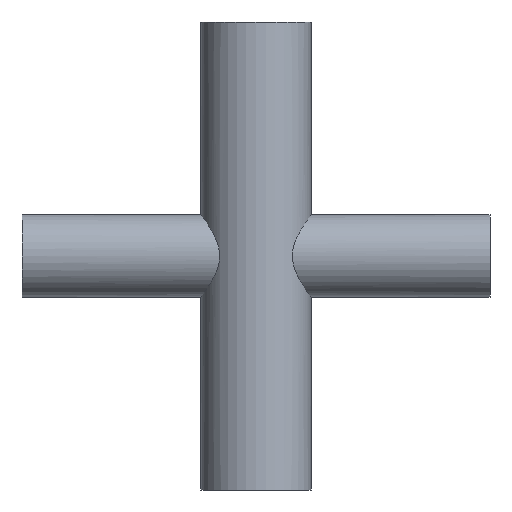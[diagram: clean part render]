
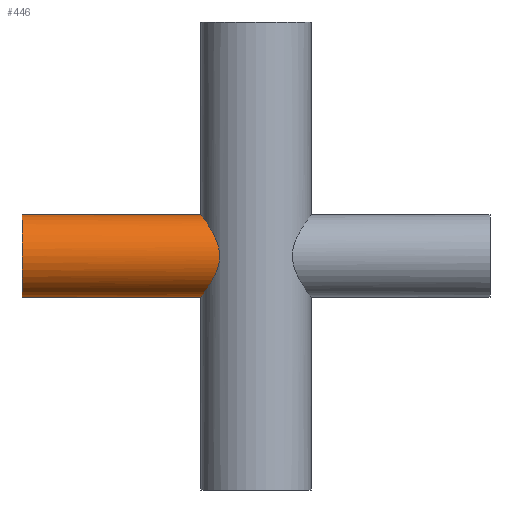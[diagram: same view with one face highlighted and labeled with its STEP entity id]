
A CAD part, front view. The second image highlights one B-rep face of the part: STEP entity #446.
In plain terms, the highlighted cylindrical face has radius 9.525 mm (diameter 19.05 mm), a partial arc.
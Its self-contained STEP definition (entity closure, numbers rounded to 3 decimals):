
#16 = CARTESIAN_POINT ( 'NONE',  ( -53.975, 0., 9.525 ) ) ;
#32 = DIRECTION ( 'NONE',  ( 1., 0., 0. ) ) ;
#40 = CARTESIAN_POINT ( 'NONE',  ( -8.689, -9.263, -2.241 ) ) ;
#43 = LINE ( 'NONE', #16, #692 ) ;
#44 = CARTESIAN_POINT ( 'NONE',  ( -11.733, -4.87, 8.191 ) ) ;
#47 = CARTESIAN_POINT ( 'NONE',  ( -11.943, -4.329, 8.49 ) ) ;
#55 = CARTESIAN_POINT ( 'NONE',  ( -12.649, -1.31, -9.457 ) ) ;
#77 = EDGE_CURVE ( 'NONE', #548, #858, #637, .T. ) ;
#80 = ORIENTED_EDGE ( 'NONE', *, *, #334, .F. ) ;
#87 = LINE ( 'NONE', #381, #649 ) ;
#94 = ORIENTED_EDGE ( 'NONE', *, *, #903, .T. ) ;
#108 = CARTESIAN_POINT ( 'NONE',  ( -9.078, -8.883, 3.451 ) ) ;
#113 = CARTESIAN_POINT ( 'NONE',  ( -8.692, -9.26, 2.255 ) ) ;
#124 = CARTESIAN_POINT ( 'NONE',  ( -12.3, -3.177, 8.985 ) ) ;
#127 = CARTESIAN_POINT ( 'NONE',  ( -10.476, -7.182, 6.263 ) ) ;
#130 = CARTESIAN_POINT ( 'NONE',  ( -12.7, -0.661, -9.525 ) ) ;
#136 = CARTESIAN_POINT ( 'NONE',  ( -8.552, -9.39, 1.631 ) ) ;
#160 = EDGE_CURVE ( 'NONE', #548, #833, #43, .T. ) ;
#181 = CARTESIAN_POINT ( 'NONE',  ( -12.7, 0., -9.525 ) ) ;
#236 = ORIENTED_EDGE ( 'NONE', *, *, #160, .F. ) ;
#244 = CARTESIAN_POINT ( 'NONE',  ( -10.612, -6.982, 6.486 ) ) ;
#250 = CARTESIAN_POINT ( 'NONE',  ( -8.496, -9.44, 1.311 ) ) ;
#255 = DIRECTION ( 'NONE',  ( 0., 0., -1. ) ) ;
#257 = CARTESIAN_POINT ( 'NONE',  ( -9.421, -8.523, 4.297 ) ) ;
#261 = CARTESIAN_POINT ( 'NONE',  ( -8.965, -8.996, -3.145 ) ) ;
#277 = AXIS2_PLACEMENT_3D ( 'NONE', #651, #32, #255 ) ;
#322 = CARTESIAN_POINT ( 'NONE',  ( -8.419, -9.509, -0.642 ) ) ;
#331 = CARTESIAN_POINT ( 'NONE',  ( -53.975, 0., 0. ) ) ;
#332 = CARTESIAN_POINT ( 'NONE',  ( -12.442, -2.564, 9.179 ) ) ;
#334 = EDGE_CURVE ( 'NONE', #833, #583, #589, .T. ) ;
#379 = CARTESIAN_POINT ( 'NONE',  ( -10.069, -7.743, -5.555 ) ) ;
#381 = CARTESIAN_POINT ( 'NONE',  ( -53.975, 0., -9.525 ) ) ;
#392 = CARTESIAN_POINT ( 'NONE',  ( -10.203, -7.566, -5.794 ) ) ;
#398 = CARTESIAN_POINT ( 'NONE',  ( -11.265, -5.892, 7.509 ) ) ;
#402 = CARTESIAN_POINT ( 'NONE',  ( -9.073, -8.888, -3.439 ) ) ;
#446 = ADVANCED_FACE ( 'NONE', ( #628 ), #593, .T. ) ;
#449 = CARTESIAN_POINT ( 'NONE',  ( -12.7, 0., 9.525 ) ) ;
#451 = CARTESIAN_POINT ( 'NONE',  ( -12.7, 0., 9.525 ) ) ;
#460 = CARTESIAN_POINT ( 'NONE',  ( -12.7, -0.66, 9.525 ) ) ;
#466 = CARTESIAN_POINT ( 'NONE',  ( -9.676, -8.236, 4.821 ) ) ;
#477 = CARTESIAN_POINT ( 'NONE',  ( -12.219, -3.474, 8.875 ) ) ;
#482 = ORIENTED_EDGE ( 'NONE', *, *, #77, .T. ) ;
#515 = EDGE_LOOP ( 'NONE', ( #236, #482, #94, #80 ) ) ;
#531 = CARTESIAN_POINT ( 'NONE',  ( -8.493, -9.443, -1.289 ) ) ;
#541 = CARTESIAN_POINT ( 'NONE',  ( -10.609, -6.986, -6.481 ) ) ;
#545 = CARTESIAN_POINT ( 'NONE',  ( -10.473, -7.187, -6.258 ) ) ;
#548 = VERTEX_POINT ( 'NONE', #886 ) ;
#554 = DIRECTION ( 'NONE',  ( 1., 0., 0. ) ) ;
#583 = VERTEX_POINT ( 'NONE', #181 ) ;
#589 = B_SPLINE_CURVE_WITH_KNOTS ( 'NONE', 3,
 ( #449, #460, #751, #627, #332, #124, #477, #676, #47, #44, #745, #398, #895, #244, #127, #887, #610, #466, #257, #108, #758, #604, #113, #136, #250, #904, #826, #693, #322, #531, #830, #40, #832, #261, #402, #876, #882, #379, #392, #545, #541, #621, #617, #671, #762, #741, #755, #812, #901, #55, #130, #697 ),
 .UNSPECIFIED., .F., .F.,
 ( 4, 2, 2, 2, 2, 2, 2, 2, 2, 2, 2, 2, 2, 2, 2, 2, 2, 2, 2, 2, 2, 2, 2, 2, 2, 4 ),
 ( 0., 0.002, 0.003, 0.004, 0.005, 0.006, 0.008, 0.009, 0.01, 0.012, 0.013, 0.014, 0.015, 0.016, 0.017, 0.018, 0.019, 0.019, 0.021, 0.022, 0.023, 0.025, 0.027, 0.028, 0.029, 0.031 ),
 .UNSPECIFIED. ) ;
#593 = CYLINDRICAL_SURFACE ( 'NONE', #633, 9.525 ) ;
#604 = CARTESIAN_POINT ( 'NONE',  ( -8.777, -9.18, 2.56 ) ) ;
#610 = CARTESIAN_POINT ( 'NONE',  ( -10.072, -7.739, 5.561 ) ) ;
#612 = CARTESIAN_POINT ( 'NONE',  ( -53.975, 0., -9.525 ) ) ;
#617 = CARTESIAN_POINT ( 'NONE',  ( -11.26, -5.899, -7.503 ) ) ;
#621 = CARTESIAN_POINT ( 'NONE',  ( -11.006, -6.357, -7.118 ) ) ;
#627 = CARTESIAN_POINT ( 'NONE',  ( -12.503, -2.251, 9.261 ) ) ;
#628 = FACE_OUTER_BOUND ( 'NONE', #515, .T. ) ;
#633 = AXIS2_PLACEMENT_3D ( 'NONE', #331, #554, #906 ) ;
#637 = CIRCLE ( 'NONE', #277, 9.525 ) ;
#649 = VECTOR ( 'NONE', #821, 1000. ) ;
#651 = CARTESIAN_POINT ( 'NONE',  ( -53.975, 0., 0. ) ) ;
#671 = CARTESIAN_POINT ( 'NONE',  ( -11.731, -4.897, -8.192 ) ) ;
#676 = CARTESIAN_POINT ( 'NONE',  ( -12.041, -4.049, 8.627 ) ) ;
#692 = VECTOR ( 'NONE', #782, 1000. ) ;
#693 = CARTESIAN_POINT ( 'NONE',  ( -8.4, -9.525, -0.318 ) ) ;
#697 = CARTESIAN_POINT ( 'NONE',  ( -12.7, 0., -9.525 ) ) ;
#741 = CARTESIAN_POINT ( 'NONE',  ( -12.217, -3.484, -8.871 ) ) ;
#745 = CARTESIAN_POINT ( 'NONE',  ( -11.619, -5.134, 8.029 ) ) ;
#751 = CARTESIAN_POINT ( 'NONE',  ( -12.649, -1.305, 9.457 ) ) ;
#755 = CARTESIAN_POINT ( 'NONE',  ( -12.297, -3.188, -8.981 ) ) ;
#758 = CARTESIAN_POINT ( 'NONE',  ( -8.97, -8.992, 3.157 ) ) ;
#762 = CARTESIAN_POINT ( 'NONE',  ( -11.948, -4.347, -8.498 ) ) ;
#782 = DIRECTION ( 'NONE',  ( 1., 0., 0. ) ) ;
#812 = CARTESIAN_POINT ( 'NONE',  ( -12.439, -2.581, -9.174 ) ) ;
#821 = DIRECTION ( 'NONE',  ( 1., 0., 0. ) ) ;
#826 = CARTESIAN_POINT ( 'NONE',  ( -8.401, -9.525, 0.332 ) ) ;
#830 = CARTESIAN_POINT ( 'NONE',  ( -8.548, -9.393, -1.613 ) ) ;
#832 = CARTESIAN_POINT ( 'NONE',  ( -8.773, -9.184, -2.547 ) ) ;
#833 = VERTEX_POINT ( 'NONE', #451 ) ;
#858 = VERTEX_POINT ( 'NONE', #612 ) ;
#876 = CARTESIAN_POINT ( 'NONE',  ( -9.417, -8.528, -4.288 ) ) ;
#882 = CARTESIAN_POINT ( 'NONE',  ( -9.672, -8.241, -4.813 ) ) ;
#886 = CARTESIAN_POINT ( 'NONE',  ( -53.975, 0., 9.525 ) ) ;
#887 = CARTESIAN_POINT ( 'NONE',  ( -10.206, -7.561, 5.8 ) ) ;
#895 = CARTESIAN_POINT ( 'NONE',  ( -11.009, -6.351, 7.124 ) ) ;
#901 = CARTESIAN_POINT ( 'NONE',  ( -12.5, -2.267, -9.257 ) ) ;
#903 = EDGE_CURVE ( 'NONE', #858, #583, #87, .T. ) ;
#904 = CARTESIAN_POINT ( 'NONE',  ( -8.42, -9.508, 0.658 ) ) ;
#906 = DIRECTION ( 'NONE',  ( 0., 0., -1. ) ) ;
